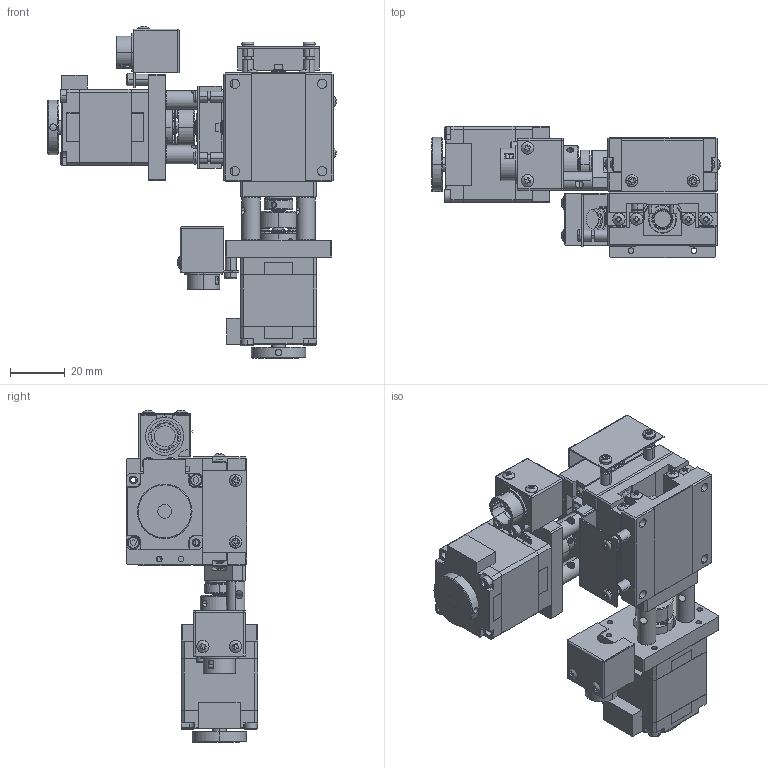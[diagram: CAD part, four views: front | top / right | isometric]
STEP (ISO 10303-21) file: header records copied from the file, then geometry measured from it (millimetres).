
FILE_DESCRIPTION (( 'STEP AP214' ), '1' );
FILE_NAME ('TYS4015E-L1-M28R.STEP', '2025-01-03T09:21:34', ( '' ), ( '' ), 'SwSTEP 2.0', 'SolidWorks 2020', '' );
FILE_SCHEMA (( 'AUTOMOTIVE_DESIGN' ));
Length unit declared in the file: millimetre
Products named in the file (2): TXS4015E-L1-M28R; TYS4015E-L1-M28R
Assembly tree (2 placements, depth 2):
  TYS4015E-L1-M28R
    TXS4015E-L1-M28R  x2
Bounding box: 105.63 x 48 x 121.63 mm (x, y, z)
Volume: 123892.9 mm3; surface area: 77066.3 mm2
Topology: 170 solids, 170 shells, 3640 faces, 9424 edges, 6088 vertices
Faces by surface type: plane 1788, cylinder 1172, cone 352, bspline 168, sphere 112, torus 48
Entity records: 60721 total; most frequent: CARTESIAN_POINT 16702, ORIENTED_EDGE 9024, DIRECTION 8706, EDGE_CURVE 4512, AXIS2_PLACEMENT_3D 3165, VERTEX_POINT 2960, LINE 2376, VECTOR 2376
